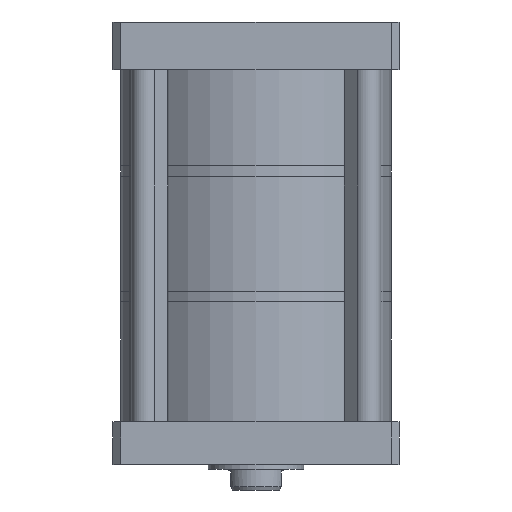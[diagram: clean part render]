
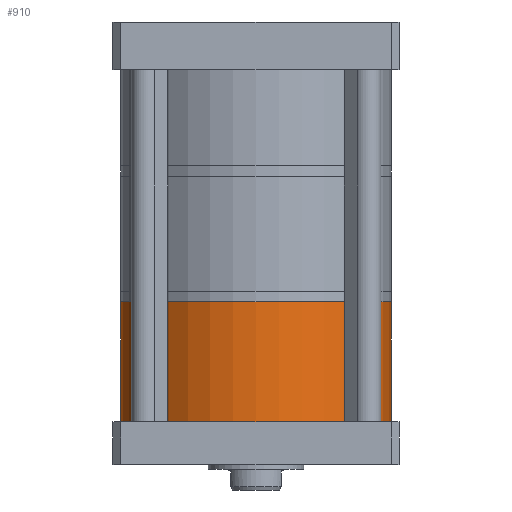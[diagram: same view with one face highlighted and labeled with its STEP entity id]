
A CAD part, front view. The second image highlights one B-rep face of the part: STEP entity #910.
In plain terms, the highlighted cylindrical face has radius 85 mm (diameter 170 mm), a partial arc.
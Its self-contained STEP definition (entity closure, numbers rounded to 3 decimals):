
#8 = FACE_OUTER_BOUND ( 'NONE', #8632, .T. ) ;
#184 = VERTEX_POINT ( 'NONE', #9269 ) ;
#239 = DIRECTION ( 'NONE',  ( 0., 0., 1. ) ) ;
#466 = CARTESIAN_POINT ( 'NONE',  ( -85., 0., -146. ) ) ;
#665 = DIRECTION ( 'NONE',  ( -1., 0., 0. ) ) ;
#828 = EDGE_CURVE ( 'NONE', #8948, #7605, #8011, .T. ) ;
#894 = EDGE_CURVE ( 'NONE', #184, #8205, #2440, .T. ) ;
#910 = ADVANCED_FACE ( 'NONE', ( #8 ), #7380, .T. ) ;
#939 = CARTESIAN_POINT ( 'NONE',  ( -85., 0., -221.5 ) ) ;
#1948 = ORIENTED_EDGE ( 'NONE', *, *, #828, .T. ) ;
#1981 = VECTOR ( 'NONE', #6767, 1000. ) ;
#2440 = LINE ( 'NONE', #939, #1981 ) ;
#2568 = ORIENTED_EDGE ( 'NONE', *, *, #894, .F. ) ;
#2592 = CIRCLE ( 'NONE', #7300, 85. ) ;
#3028 = CARTESIAN_POINT ( 'NONE',  ( 85., 0., -146. ) ) ;
#3146 = DIRECTION ( 'NONE',  ( 1., 0., 0. ) ) ;
#3216 = EDGE_CURVE ( 'NONE', #7605, #8205, #8047, .T. ) ;
#3428 = CARTESIAN_POINT ( 'NONE',  ( 0., 0., -221.5 ) ) ;
#3754 = CARTESIAN_POINT ( 'NONE',  ( 85., 0., -221.5 ) ) ;
#3900 = AXIS2_PLACEMENT_3D ( 'NONE', #9361, #4996, #665 ) ;
#4142 = DIRECTION ( 'NONE',  ( -1., 0., 0. ) ) ;
#4996 = DIRECTION ( 'NONE',  ( 0., 0., -1. ) ) ;
#5582 = ORIENTED_EDGE ( 'NONE', *, *, #7959, .F. ) ;
#5919 = ORIENTED_EDGE ( 'NONE', *, *, #3216, .T. ) ;
#5951 = DIRECTION ( 'NONE',  ( 0., 0., 1. ) ) ;
#6064 = VECTOR ( 'NONE', #5951, 1000. ) ;
#6767 = DIRECTION ( 'NONE',  ( 0., 0., 1. ) ) ;
#7300 = AXIS2_PLACEMENT_3D ( 'NONE', #3428, #8526, #4142 ) ;
#7380 = CYLINDRICAL_SURFACE ( 'NONE', #8234, 85. ) ;
#7605 = VERTEX_POINT ( 'NONE', #3028 ) ;
#7959 = EDGE_CURVE ( 'NONE', #8948, #184, #2592, .T. ) ;
#8011 = LINE ( 'NONE', #3754, #6064 ) ;
#8047 = CIRCLE ( 'NONE', #3900, 85. ) ;
#8205 = VERTEX_POINT ( 'NONE', #466 ) ;
#8217 = CARTESIAN_POINT ( 'NONE',  ( 0., 0., -221.5 ) ) ;
#8234 = AXIS2_PLACEMENT_3D ( 'NONE', #8217, #239, #3146 ) ;
#8430 = CARTESIAN_POINT ( 'NONE',  ( 85., 0., -221.5 ) ) ;
#8526 = DIRECTION ( 'NONE',  ( 0., 0., -1. ) ) ;
#8632 = EDGE_LOOP ( 'NONE', ( #2568, #5582, #1948, #5919 ) ) ;
#8948 = VERTEX_POINT ( 'NONE', #8430 ) ;
#9269 = CARTESIAN_POINT ( 'NONE',  ( -85., 0., -221.5 ) ) ;
#9361 = CARTESIAN_POINT ( 'NONE',  ( 0., 0., -146. ) ) ;
